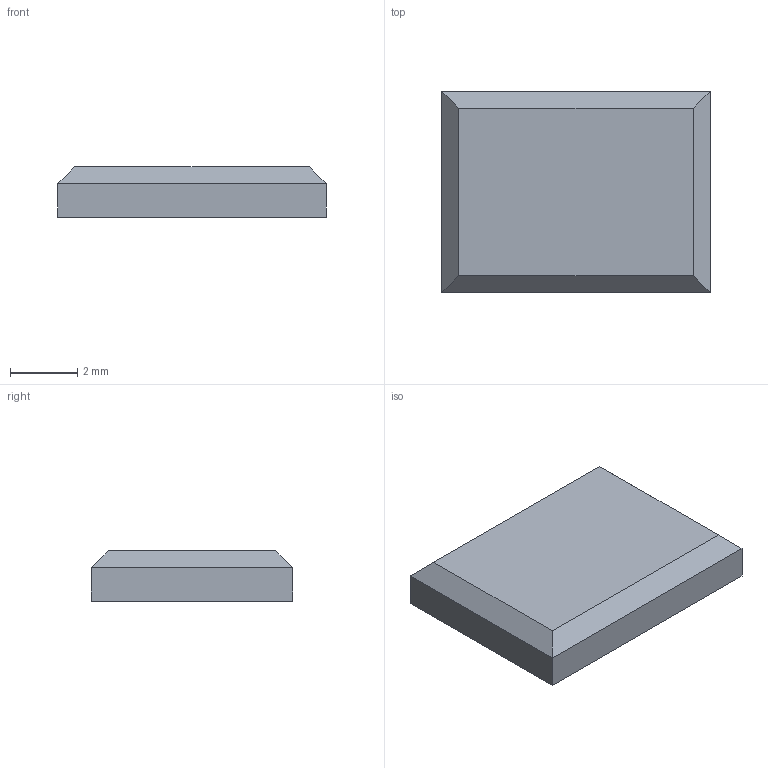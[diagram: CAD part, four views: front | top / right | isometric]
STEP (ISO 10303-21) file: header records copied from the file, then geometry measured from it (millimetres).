
FILE_DESCRIPTION(('FreeCAD Model'),'2;1');
FILE_NAME('Open CASCADE Shape Model','2026-10-30T13:26:09',('FreeCAD'),( 'FreeCAD'),'Open CASCADE STEP processor 7.8','FreeCAD','Unknown');
FILE_SCHEMA(('AUTOMOTIVE_DESIGN { 1 0 10303 214 1 1 1 1 }'));
Length unit declared in the file: millimetre
Products named in the file (1): Open CASCADE STEP translator 7.8 2
Bounding box: 8 x 6 x 1.5 mm (x, y, z)
Volume: 68.7 mm3; surface area: 129.4 mm2
Topology: 1 solids, 1 shells, 10 faces, 20 edges, 12 vertices
Faces by surface type: plane 10
Entity records: 262 total; most frequent: CARTESIAN_POINT 43, DIRECTION 42, ORIENTED_EDGE 40, EDGE_CURVE 20, LINE 20, VECTOR 20, VERTEX_POINT 12, AXIS2_PLACEMENT_3D 11
